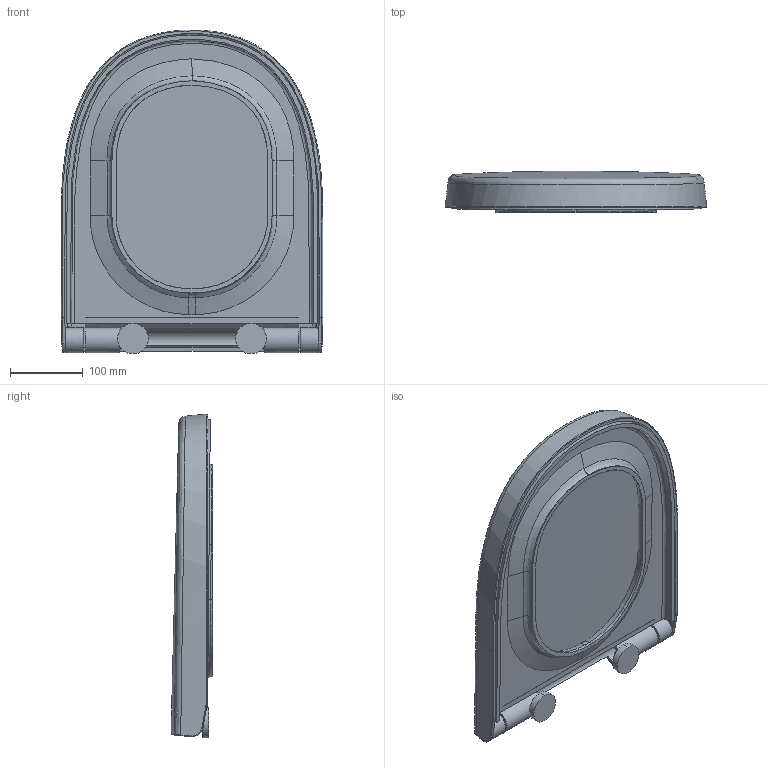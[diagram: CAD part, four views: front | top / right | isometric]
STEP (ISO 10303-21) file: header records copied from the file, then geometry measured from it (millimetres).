
FILE_DESCRIPTION (( 'STEP AP203' ), '1' );
FILE_NAME ('MA361 Klozet Kapaðý.STEP', '2018-01-05T12:22:10', ( '' ), ( '' ), 'SwSTEP 2.0', 'SolidWorks 2017', '' );
FILE_SCHEMA (( 'CONFIG_CONTROL_DESIGN' ));
Length unit declared in the file: millimetre
Products named in the file (1): MA361 Klozet Kapaðý
Bounding box: 359.48 x 57.55 x 445.48 mm (x, y, z)
Volume: 1541445.7 mm3; surface area: 600332.6 mm2
Topology: 4 solids, 4 shells, 154 faces, 390 edges, 241 vertices
Faces by surface type: bspline 67, plane 48, cylinder 39
Entity records: 27388 total; most frequent: CARTESIAN_POINT 24213, ORIENTED_EDGE 776, DIRECTION 425, EDGE_CURVE 388, VERTEX_POINT 241, B_SPLINE_CURVE_WITH_KNOTS 184, EDGE_LOOP 163, ADVANCED_FACE 154
